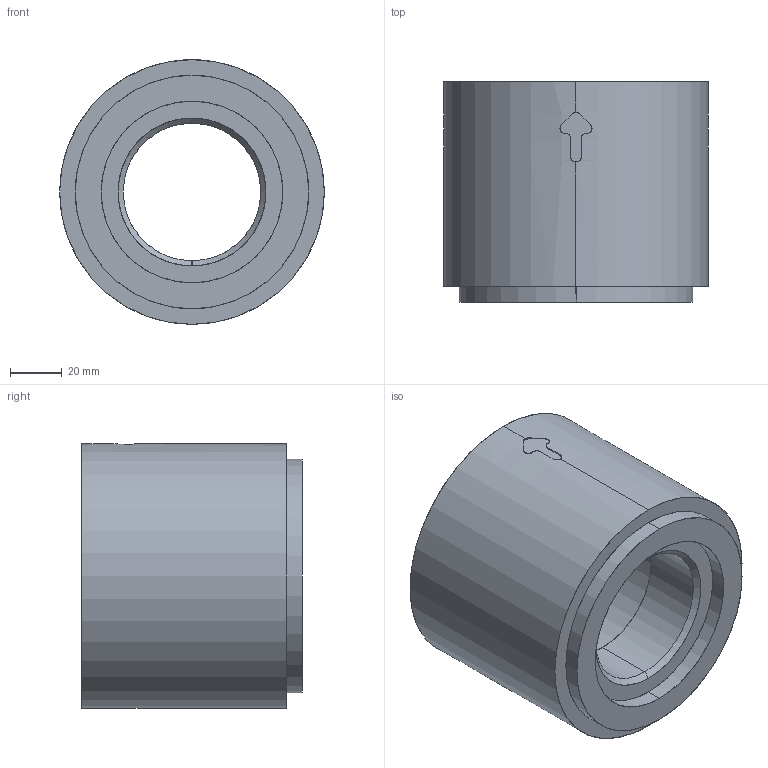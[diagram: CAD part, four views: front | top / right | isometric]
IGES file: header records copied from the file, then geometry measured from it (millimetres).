
Start section: SolidWorks IGES file using analytic representation for surfaces
Bounding box: 102 x 85 x 102 mm (x, y, z)
Surface area: 55607.3 mm2 (no closed solid volume)
Topology: 0 solids, 0 shells, 34 faces, 1034 edges, 1034 vertices
Faces by surface type: revolution 21, bspline 13
